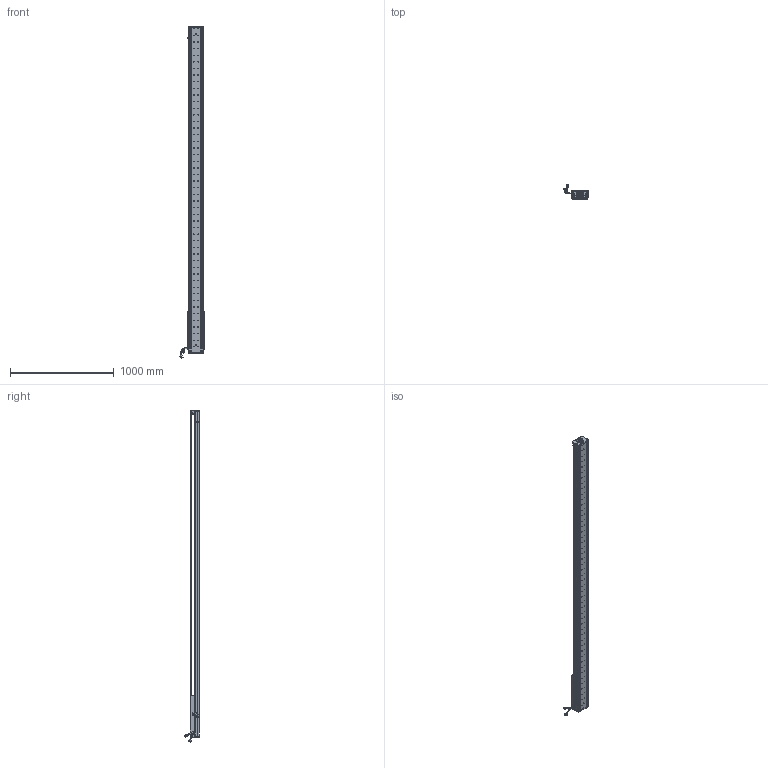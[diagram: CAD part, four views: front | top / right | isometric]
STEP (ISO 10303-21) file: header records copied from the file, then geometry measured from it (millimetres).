
FILE_DESCRIPTION (( 'STEP AP203' ), '1' );
FILE_NAME ('Z5-RY140D-1-L500-B-K.SLDASM_2700.step', '2021-05-17T08:41:19', ( '盈信电脑' ), ( '东莞市道滘镇水果街19号' ), 'SwSTEP 2.0', 'SolidWorks 2016', '' );
FILE_SCHEMA (( 'CONFIG_CONTROL_DESIGN' ));
Length unit declared in the file: millimetre
Products named in the file (36): SCREW-M1.7; HOLDER0; SCALE-Part-2; COVER-Part-1; SCREW-M1.6-2; 榋妏寠巭燃_暯_M2_2; LABEL; Z5-RY140圉猾敕臏賑輸(21遴); 140蚥薯蝶輸; SCALE-Part-1; SCREW-M1.6; PBU_SHEET; HARNESS-Part-1; 覜茼ん672; 080黍杅芛假蚾釱21遴; PSLH080_PSLF2; HARNESS-Part-2; SHIELDPLATE; SCALE; 140-Z-臏賑輸盄裔(21遴); 詩湍狟揤裔; Z5-RY140-L500直线电机模组底座_2700; COVER; SEAL-Part-1; SCREW-M1.6-1; Z5-RY140D-1-L500-B-K.SLDASM_2700; HARNESS; 詩湍奻揤裔; SEAL; SCREW-M1.7-1; Z-140詩湍傷裔啣; 140雄赽晤鎢ん堤盄; Z5-RY140-L500詩湍100mm遵_2700; Z-RY140感应器672光电感应片; LABEL-Part-1; SCREW-M1.6-3
Assembly tree (41 placements, depth 4):
  Z5-RY140D-1-L500-B-K.SLDASM_2700
    Z5-RY140-L500直线电机模组底座_2700
    Z-RY140感应器672光电感应片
    Z5-RY140圉猾敕臏賑輸(21遴)
    覜茼ん672  x3
    Z5-RY140-L500詩湍100mm遵_2700
    PSLH080_PSLF2
      SCALE
        SCALE-Part-1
        SCALE-Part-2
      HARNESS
        HARNESS-Part-1
        HARNESS-Part-2
      LABEL
        LABEL-Part-1
      COVER
        COVER-Part-1
      SEAL
        SEAL-Part-1
      榋妏寠巭燃_暯_M2_2
      SHIELDPLATE
      SCREW-M1.7
      SCREW-M1.7-1
      PBU_SHEET
      SCREW-M1.6
      SCREW-M1.6-1
      SCREW-M1.6-2
      SCREW-M1.6-3
      HOLDER0
    080黍杅芛假蚾釱21遴
    140-Z-臏賑輸盄裔(21遴)
    Z-140詩湍傷裔啣  x2
    詩湍狟揤裔  x2
    詩湍奻揤裔  x2
    140蚥薯蝶輸  x2
    140雄赽晤鎢ん堤盄
Bounding box: 239.79 x 143.88 x 3205.87 mm (x, y, z)
Volume: 10465130.5 mm3; surface area: 2690542.5 mm2
Topology: 36 solids, 36 shells, 4562 faces, 12482 edges, 7909 vertices
Faces by surface type: cylinder 2548, plane 1450, cone 442, torus 69, bspline 53
Entity records: 147030 total; most frequent: CARTESIAN_POINT 42113, ORIENTED_EDGE 21804, DIRECTION 20030, EDGE_CURVE 10902, AXIS2_PLACEMENT_3D 7490, VERTEX_POINT 7077, LINE 5050, VECTOR 5050
